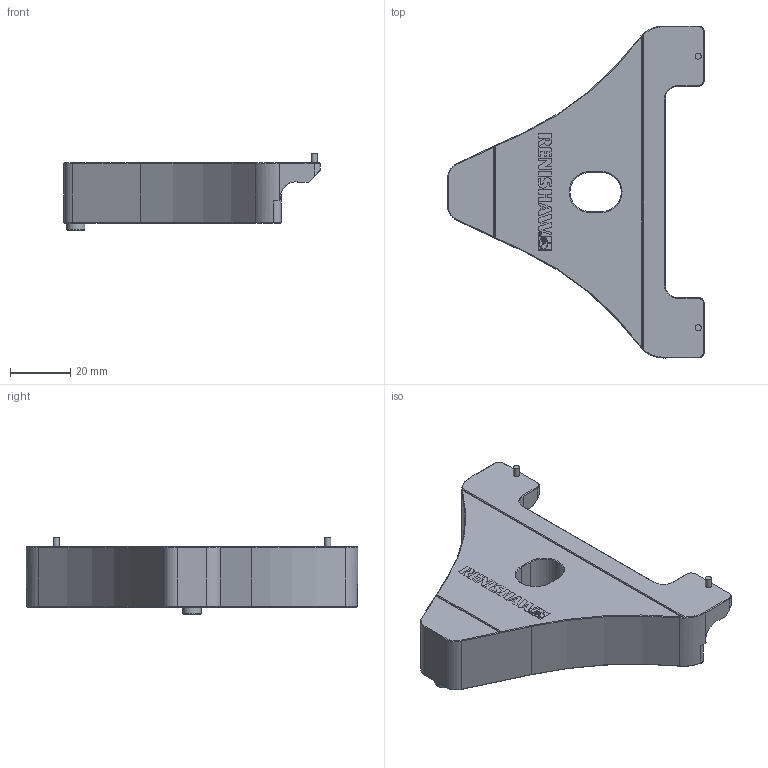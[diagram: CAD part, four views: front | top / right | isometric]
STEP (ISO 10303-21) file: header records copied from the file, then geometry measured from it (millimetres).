
FILE_DESCRIPTION(/* description */ (''),/* implementation_level */ '2;1');
FILE_NAME(/* name */ 'LA-6007-0610-A.stp',/* time_stamp */ '2015-01-28T11:14:52+00:00',/* author */ (''),/* organization */ (''),/* preprocessor_version */ 'ST-DEVELOPER v11',/* originating_system */ 'SIEMENS PLM Software NX 7.5',/* authorisation */ '');
FILE_SCHEMA (('AUTOMOTIVE_DESIGN { 1 0 10303 214 1 1 1 1 }'));
Length unit declared in the file: millimetre
Products named in the file (1): rt13982Avlb0
Bounding box: 85 x 110 x 25.65 mm (x, y, z)
Volume: 81945.7 mm3; surface area: 15999.6 mm2
Topology: 1 solids, 3 shells, 132 faces, 398 edges, 298 vertices
Faces by surface type: plane 80, cone 29, cylinder 23
Full cylindrical faces by diameter (mm): 2 x4, 6 x1
Entity records: 5035 total; most frequent: CARTESIAN_POINT 1505, ORIENTED_EDGE 768, DIRECTION 574, EDGE_CURVE 384, VERTEX_POINT 294, AXIS2_PLACEMENT_3D 212, EDGE_LOOP 168, B_SPLINE_CURVE_WITH_KNOTS 155
